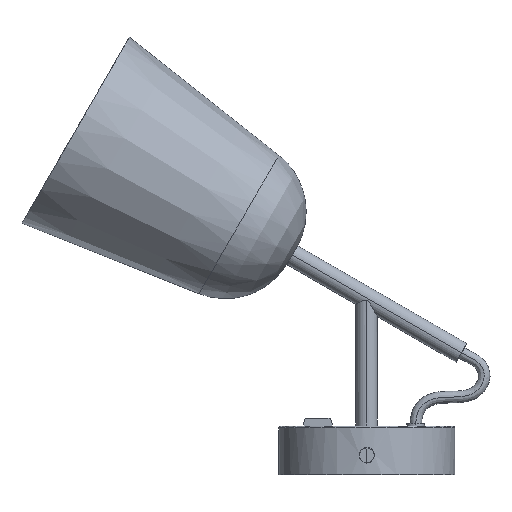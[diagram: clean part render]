
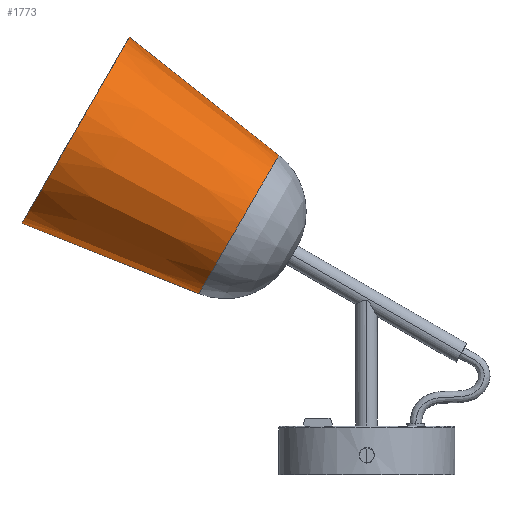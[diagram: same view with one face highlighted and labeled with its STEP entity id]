
A CAD part, left-side view. The second image highlights one B-rep face of the part: STEP entity #1773.
In plain terms, the highlighted conical face has half-angle 8.329 degrees and reference radius 53.612 mm.
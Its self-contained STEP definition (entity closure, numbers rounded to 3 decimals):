
#52=CONICAL_SURFACE('',#1912,53.612,0.145);
#111=CIRCLE('',#1909,55.023);
#218=LINE('',#3255,#349);
#219=LINE('',#3256,#350);
#349=VECTOR('',#2153,304.8);
#350=VECTOR('',#2154,304.8);
#545=FACE_OUTER_BOUND('',#662,.T.);
#662=EDGE_LOOP('',(#1294,#1295,#1296,#1297));
#784=B_SPLINE_CURVE_WITH_KNOTS('',3,(#3258,#3259,#3260,#3261,#3262,#3263,
#3264,#3265,#3266),.UNSPECIFIED.,.F.,.F.,(4,1,1,1,1,1,4),(0.,0.167,
0.333,0.5,0.667,0.833,1.),
 .UNSPECIFIED.);
#829=VERTEX_POINT('',#3232);
#830=VERTEX_POINT('',#3233);
#833=VERTEX_POINT('',#3244);
#834=VERTEX_POINT('',#3245);
#1004=EDGE_CURVE('',#830,#829,#111,.T.);
#1007=EDGE_CURVE('',#829,#833,#218,.T.);
#1008=EDGE_CURVE('',#834,#830,#219,.T.);
#1009=EDGE_CURVE('',#834,#833,#784,.T.);
#1294=ORIENTED_EDGE('',*,*,#1009,.F.);
#1295=ORIENTED_EDGE('',*,*,#1008,.T.);
#1296=ORIENTED_EDGE('',*,*,#1004,.T.);
#1297=ORIENTED_EDGE('',*,*,#1007,.T.);
#1773=ADVANCED_FACE('',(#545),#52,.T.);
#1909=AXIS2_PLACEMENT_3D('',#3241,#2147,#2148);
#1912=AXIS2_PLACEMENT_3D('',#3257,#2155,#2156);
#2147=DIRECTION('center_axis',(0.,-0.866,-0.5));
#2148=DIRECTION('ref_axis',(-0.588,-0.405,0.701));
#2153=DIRECTION('',(0.,-0.929,-0.369));
#2154=DIRECTION('',(0.,0.784,0.62));
#2155=DIRECTION('center_axis',(0.,0.866,0.5));
#2156=DIRECTION('ref_axis',(-0.588,-0.405,0.701));
#3232=CARTESIAN_POINT('',(0.,176.464,128.752));
#3233=CARTESIAN_POINT('',(0.,121.441,224.056));
#3241=CARTESIAN_POINT('Origin',(0.,148.952,176.404));
#3244=CARTESIAN_POINT('',(0.,85.894,92.762));
#3245=CARTESIAN_POINT('',(0.,44.987,163.614));
#3255=CARTESIAN_POINT('',(0.,176.464,128.752));
#3256=CARTESIAN_POINT('',(0.,44.987,163.614));
#3257=CARTESIAN_POINT('Origin',(0.,140.601,171.582));
#3258=CARTESIAN_POINT('Ctrl Pts',(0.,44.987,163.614));
#3259=CARTESIAN_POINT('Ctrl Pts',(-7.228,44.907,163.753));
#3260=CARTESIAN_POINT('Ctrl Pts',(-21.367,46.937,160.238));
#3261=CARTESIAN_POINT('Ctrl Pts',(-37.094,54.727,146.745));
#3262=CARTESIAN_POINT('Ctrl Pts',(-42.813,65.441,128.188));
#3263=CARTESIAN_POINT('Ctrl Pts',(-37.094,76.154,109.631));
#3264=CARTESIAN_POINT('Ctrl Pts',(-21.367,83.945,96.138));
#3265=CARTESIAN_POINT('Ctrl Pts',(-7.228,85.974,92.624));
#3266=CARTESIAN_POINT('Ctrl Pts',(0.,85.894,
92.762));
